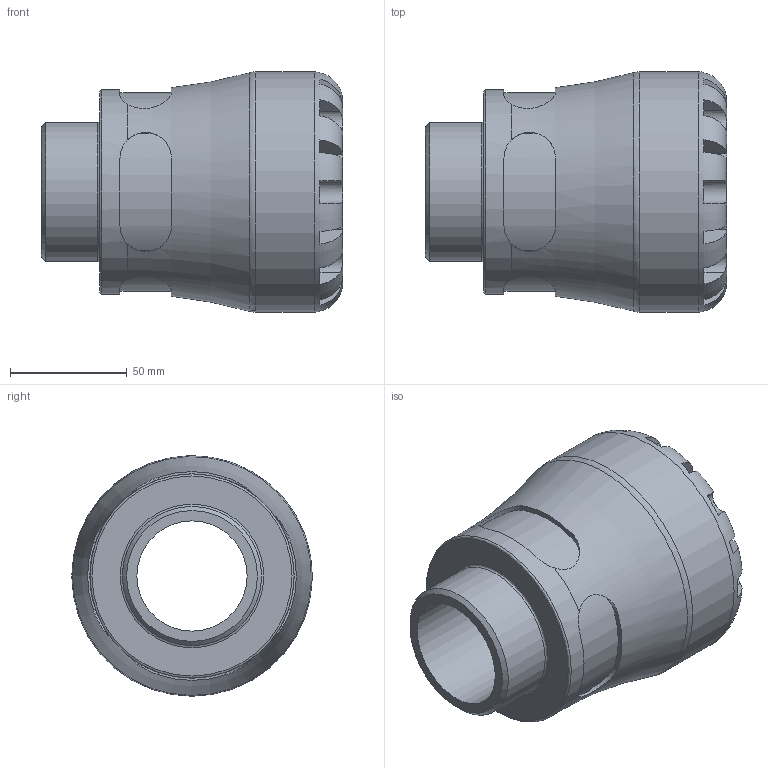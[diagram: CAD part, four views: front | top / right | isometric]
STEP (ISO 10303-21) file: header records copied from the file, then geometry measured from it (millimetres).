
FILE_DESCRIPTION(/* description */ ('PLASSON MALE ADAPTOR 63X2" SERIES 1'),/* implementation_level */ '2;1');
FILE_NAME(/* name */ 'C:\Dropbox\KIMPROJECTS-Inventor\99-16-3568-Processing\S1\1002\100200063020_190200063020.ipt.stp',/* time_stamp */ '2017-07-27T14:39:37+03:00',/* author */ ('KIM'),/* organization */ (''),/* preprocessor_version */ 'ST-DEVELOPER v15.6',/* originating_system */ 'Autodesk Inventor 2015',/* authorisation */ '');
FILE_SCHEMA (('AUTOMOTIVE_DESIGN { 1 0 10303 214 3 1 1 }'));
Length unit declared in the file: millimetre
Products named in the file (1): 100200063020_190200063020
Bounding box: 129 x 103 x 103 mm (x, y, z)
Volume: 447814.7 mm3; surface area: 72233.4 mm2
Topology: 1 solids, 1 shells, 108 faces, 281 edges, 177 vertices
Faces by surface type: plane 68, cylinder 33, torus 5, cone 2
Full cylindrical faces by diameter (mm): 47.25 x1, 59.614 x1, 63 x1, 87.55 x1, 103 x1
Entity records: 4036 total; most frequent: CARTESIAN_POINT 1509, ORIENTED_EDGE 532, DIRECTION 502, EDGE_CURVE 266, AXIS2_PLACEMENT_3D 207, VERTEX_POINT 174, EDGE_LOOP 124, FACE_OUTER_BOUND 108
